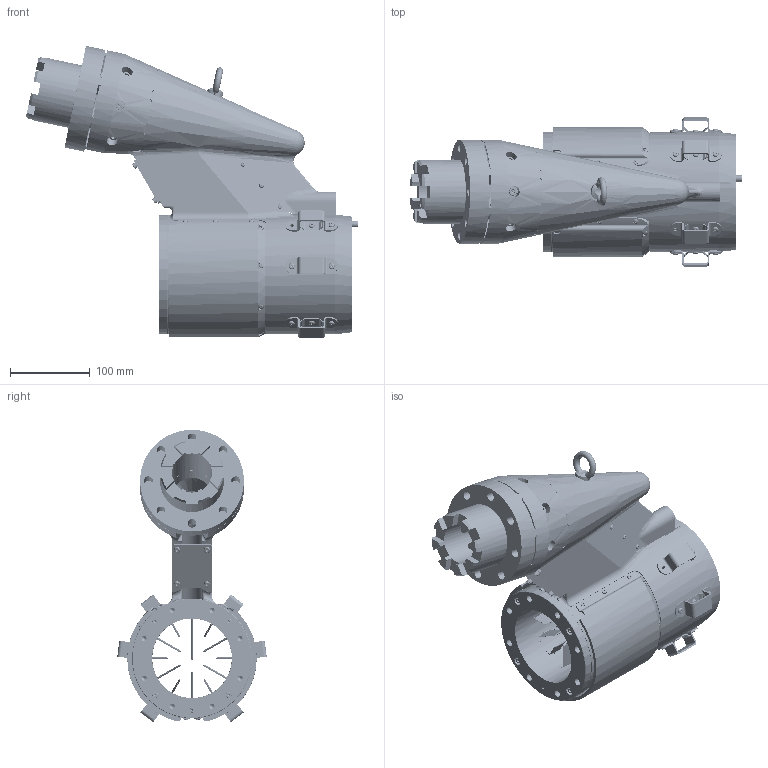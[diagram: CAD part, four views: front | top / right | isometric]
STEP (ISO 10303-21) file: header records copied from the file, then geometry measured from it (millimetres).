
FILE_DESCRIPTION(('CATIA V5 STEP Exchange','CAx-IF Rec.Pracs.--- Model Styling and Organization---1.5--- 2016-08-15','CAx-IF Rec.Pracs.---Supplemental Geometry---1.0---2011-11-01','CAx-IF Rec.Pracs.--- Composite Materials ---1.1---2010-07-15'),'2;1');
FILE_NAME('W:\8-25-003 RENOVATION DEBITMETRE PHI100 A S3\CATIA\Etude\S3MA-8-25003-0000--_ENSEMBLE_DEBIMETRIE_D100_A_S3.stp','2026-02-06T08:55:43+00:00',('none'),('none'),'CATIA Version 5-6 Release 2020 SP6 HF13','CATIA V5 STEP AP214 v2','none');
FILE_SCHEMA(('AUTOMOTIVE_DESIGN { 1 0 10303 214 1 1 1 1 }'));
Length unit declared in the file: millimetre
Products named in the file (77): S3MA-8-25003-0000--_ENSEMBLE_DEBIMETRIE_D100_A_S3; S3MA-8-25003-1001--_DARD-N-00853; S3MA-8-25003-1003--_SUPPORT_PEIGNES; S3MA-8-25003-1005--_PEIGNE_3_PRISES_DSP; S3MA-8-25003-1009--_PLAQUE_DARD-N-00853; S3MA-8-25003-1006--_PEIGNE_2_PRISES_DSP; S3MA-8-25003-1004--_PEIGNE_4_PRISES_M; S3MA-8-25003-1007--_PEIGNE_3_PRISES_GSP; S3MA-8-25003-1008--_PEIGNE_2_PRISES_GSP; S3MA-8-25003-1010--_PITOT; QUIN-8-25003----d--_TIGE_FILETEE_M2_5X9_DIN_975; Regroupement des Tiges filleté sur Répétition rectangulaire.2; Regroupement des Tiges filleté sur Répétition circulaire.4; Regroupement des Tiges filleté sur Répétition circulaire.41; Regroupement des Tiges filleté sur Répétition circulaire.42; Regroupement des Tiges filleté sur Répétition circulaire.43; QUIN-8-25003----e--_ECROUS_BAS_M_2_5_DIN_439; Regroupement des ISO 4032 NUT M2.5 STEEL GRADE A WASHER FACED HEXAGON HEAD sur Répétition rectangulaire.2; Regroupement des ISO 4032 NUT M2.5 STEEL GRADE A WASHER FACED HEXAGON HEAD sur Répétition circulaire.4; Regroupement des ISO 4032 NUT M2.5 STEEL GRADE A WASHER FACED HEXAGON HEAD sur Répétition circulaire.41; Regroupement des ISO 4032 NUT M2.5 STEEL GRADE A WASHER FACED HEXAGON HEAD sur Répétition circulaire.42; Regroupement des ISO 4032 NUT M2.5 STEEL GRADE A WASHER FACED HEXAGON HEAD sur Répétition circulaire.43; S3MA-8-25003-1012--_JOINT_PEIGNE; Regroupement des joint peigne sur Répétition circulaire.4; QUIN-8-25003----f--_JOINT_DE_BRIDE_STATIQUE_2-156; S3MA-8-25003-1013--_BOUCHON; Regroupement des Bouchon sur Répétition circulaire.5; QUIN-8-25003----i--_VIS_CHC_M6X18; Regroupement des emile_maurin_230006X16.catpart sur Répétition circulaire.16; QUIN-8-25003----h--_VIS_CHC_M4X20; QUIN-8-25003----a--_PION_D6X28_DIN_7979; QUIN-8-25003----b--_PION_D8X16_DIN_7979; QUIN-8-25003----c--_ANNEAU_DE_LEVAGE_M8X13_DIN_580; Regroupement des QUIN-8-25003----h--_VIS_CHC_M4X16 sur Répétition circulaire.5; QUIN-8-25003----g--_VIS_CHC_M4X10; Regroupement des QUIN-8-25003----g--_VIS_CHC_M4X10 sur Répétition rectangulaire.3; QUIN-8-25003----j--_VIS_BHC_M3X5; Regroupement des QUIN-8-25003----j--_VIS_BHC_M2X4 sur Répétition personnalisée.5; QUIN-8-25003----k--_PION_D4X16_DIN_7979; S3MA-8-25003-1019--_RONDELLE_M2_5_EP0_5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
Assembly tree (323 placements, depth 3):
  S3MA-8-25003-0000--_ENSEMBLE_DEBIMETRIE_D100_A_S3
    S3MA-8-25003-1001--_DARD-N-00853
    S3MA-8-25003-1003--_SUPPORT_PEIGNES
    S3MA-8-25003-1005--_PEIGNE_3_PRISES_DSP  x3
    S3MA-8-25003-1009--_PLAQUE_DARD-N-00853
    S3MA-8-25003-1006--_PEIGNE_2_PRISES_DSP  x3
    S3MA-8-25003-1004--_PEIGNE_4_PRISES_M
    S3MA-8-25003-1007--_PEIGNE_3_PRISES_GSP  x2
    S3MA-8-25003-1008--_PEIGNE_2_PRISES_GSP  x3
    S3MA-8-25003-1010--_PITOT  x31
    QUIN-8-25003----d--_TIGE_FILETEE_M2_5X9_DIN_975
    Regroupement des Tiges filleté sur Répétition rectangulaire.2
      QUIN-8-25003----d--_TIGE_FILETEE_M2_5X9_DIN_975  x3
    Regroupement des Tiges filleté sur Répétition circulaire.4
      QUIN-8-25003----d--_TIGE_FILETEE_M2_5X9_DIN_975  x11
    Regroupement des Tiges filleté sur Répétition circulaire.41
      QUIN-8-25003----d--_TIGE_FILETEE_M2_5X9_DIN_975  x11
    Regroupement des Tiges filleté sur Répétition circulaire.42
      QUIN-8-25003----d--_TIGE_FILETEE_M2_5X9_DIN_975  x11
    Regroupement des Tiges filleté sur Répétition circulaire.43
      QUIN-8-25003----d--_TIGE_FILETEE_M2_5X9_DIN_975  x11
    QUIN-8-25003----e--_ECROUS_BAS_M_2_5_DIN_439
    Regroupement des ISO 4032 NUT M2.5 STEEL GRADE A WASHER FACED HEXAGON HEAD sur Répétition rectangulaire.2
      QUIN-8-25003----e--_ECROUS_BAS_M_2_5_DIN_439  x3
    Regroupement des ISO 4032 NUT M2.5 STEEL GRADE A WASHER FACED HEXAGON HEAD sur Répétition circulaire.4
      QUIN-8-25003----e--_ECROUS_BAS_M_2_5_DIN_439  x11
    Regroupement des ISO 4032 NUT M2.5 STEEL GRADE A WASHER FACED HEXAGON HEAD sur Répétition circulaire.41
      QUIN-8-25003----e--_ECROUS_BAS_M_2_5_DIN_439  x11
    Regroupement des ISO 4032 NUT M2.5 STEEL GRADE A WASHER FACED HEXAGON HEAD sur Répétition circulaire.42
      QUIN-8-25003----e--_ECROUS_BAS_M_2_5_DIN_439  x11
    Regroupement des ISO 4032 NUT M2.5 STEEL GRADE A WASHER FACED HEXAGON HEAD sur Répétition circulaire.43
      QUIN-8-25003----e--_ECROUS_BAS_M_2_5_DIN_439  x11
    S3MA-8-25003-1012--_JOINT_PEIGNE
    Regroupement des joint peigne sur Répétition circulaire.4
      S3MA-8-25003-1012--_JOINT_PEIGNE  x11
    QUIN-8-25003----f--_JOINT_DE_BRIDE_STATIQUE_2-156
    S3MA-8-25003-1013--_BOUCHON
    Regroupement des Bouchon sur Répétition circulaire.5
      S3MA-8-25003-1013--_BOUCHON  x6
    QUIN-8-25003----i--_VIS_CHC_M6X18
    Regroupement des emile_maurin_230006X16.catpart sur Répétition circulaire.16
      QUIN-8-25003----i--_VIS_CHC_M6X18  x6
    QUIN-8-25003----h--_VIS_CHC_M4X20
    QUIN-8-25003----a--_PION_D6X28_DIN_7979
    QUIN-8-25003----b--_PION_D8X16_DIN_7979
    QUIN-8-25003----c--_ANNEAU_DE_LEVAGE_M8X13_DIN_580
    Regroupement des QUIN-8-25003----h--_VIS_CHC_M4X16 sur Répétition circulaire.5
      QUIN-8-25003----h--_VIS_CHC_M4X20  x3
    QUIN-8-25003----g--_VIS_CHC_M4X10
    Regroupement des QUIN-8-25003----g--_VIS_CHC_M4X10 sur Répétition rectangulaire.3
      QUIN-8-25003----g--_VIS_CHC_M4X10  x3
    QUIN-8-25003----j--_VIS_BHC_M3X5  x2
    Regroupement des QUIN-8-25003----j--_VIS_BHC_M2X4 sur Répétition personnalisée.5
      QUIN-8-25003----j--_VIS_BHC_M3X5  x2
    QUIN-8-25003----k--_PION_D4X16_DIN_7979
    S3MA-8-25003-1019--_RONDELLE_M2_5_EP0_5
    Regroupement des entretoise 0.5 sur Répétition rectangulaire.1
      S3MA-8-25003-1019--_RONDELLE_M2_5_EP0_5  x3
    Regroupement des entretoise 0.5 sur Répétition circulaire.4
      S3MA-8-25003-1019--_RONDELLE_M2_5_EP0_5  x11
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Bounding box: 415.24 x 187.02 x 365.71 mm (x, y, z)
Volume: 4435642.7 mm3; surface area: 824367.6 mm2
Topology: 288 solids, 288 shells, 8149 faces, 19610 edges, 11764 vertices
Faces by surface type: cylinder 3278, plane 2311, cone 1545, bspline 431, torus 425, sphere 122, extrusion 25, revolution 12
Full cylindrical faces by diameter (mm): 20 x1
Entity records: 137915 total; most frequent: CARTESIAN_POINT 66799, ORIENTED_EDGE 15386, DIRECTION 11121, EDGE_CURVE 7693, AXIS2_PLACEMENT_3D 5382, VERTEX_POINT 4810, EDGE_LOOP 3647, ADVANCED_FACE 3121
